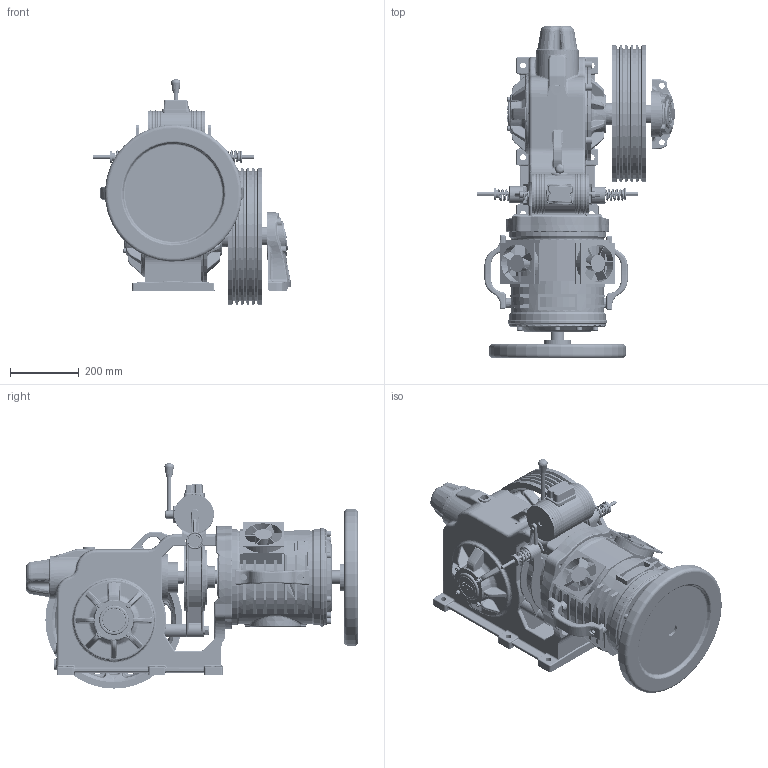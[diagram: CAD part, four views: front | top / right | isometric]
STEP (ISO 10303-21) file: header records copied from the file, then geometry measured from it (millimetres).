
FILE_DESCRIPTION (( 'STEP AP214' ), '1' );
FILE_NAME ('SMC5503021.STEP', '2026-02-02T11:36:10', ( '' ), ( '' ), 'SwSTEP 2.0', 'SolidWorks 2025', '' );
FILE_SCHEMA (( 'AUTOMOTIVE_DESIGN' ));
Length unit declared in the file: millimetre
Products named in the file (1): SMC5503021
Bounding box: 576.66 x 968.88 x 657.5 mm (x, y, z)
Volume: 57855333.8 mm3; surface area: 3601311 mm2
Topology: 34 solids, 71 shells, 5193 faces, 12440 edges, 7466 vertices
Faces by surface type: bspline 1733, cylinder 1432, plane 1338, cone 381, torus 267, sphere 42
Entity records: 218651 total; most frequent: CARTESIAN_POINT 111838, ORIENTED_EDGE 24652, DIRECTION 19134, EDGE_CURVE 12326, AXIS2_PLACEMENT_3D 7646, VERTEX_POINT 7458, EDGE_LOOP 5602, ADVANCED_FACE 5193
